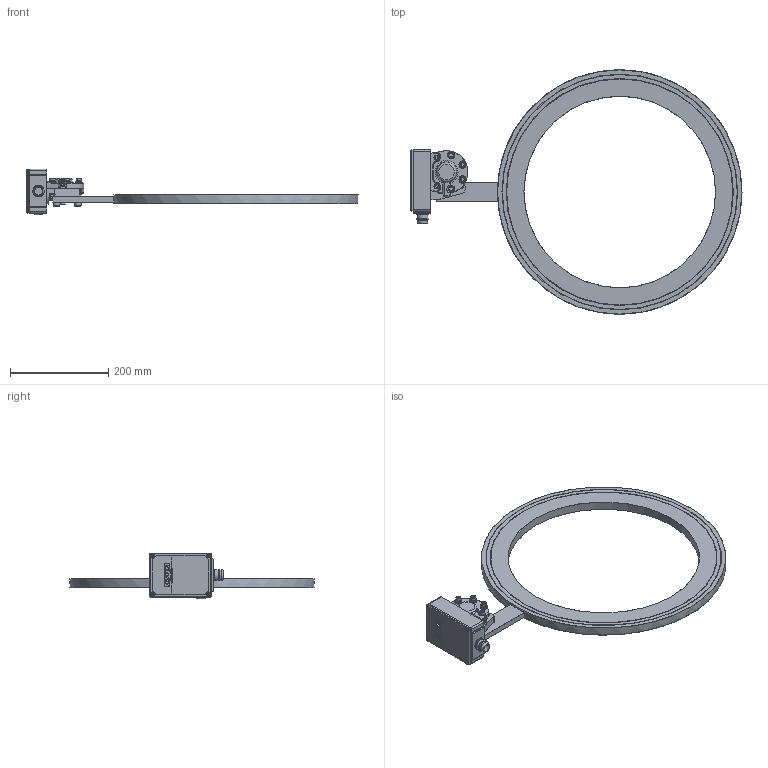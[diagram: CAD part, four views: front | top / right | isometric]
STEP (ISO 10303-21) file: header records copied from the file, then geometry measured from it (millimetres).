
FILE_DESCRIPTION(/* description */ ('Alibre Inc.'),/* implementation_level */ '2;1');
FILE_NAME(/* name */ 'export0',/* time_stamp */ '2012-10-19T13:19:01+02:00',/* author */ (''),/* organization */ (''),/* preprocessor_version */ 'ST-DEVELOPER v14',/* originating_system */ 'Alibre',/* authorisation */ '');
FILE_SCHEMA (('CONFIG_CONTROL_DESIGN'));
Length unit declared in the file: centimetre
Products named in the file (12): ID_1; ID_2; ID_3; ID_4; ID_5; ID_6; ID_7; ID_8
Bounding box: 676.28 x 498 x 93.66 mm (x, y, z)
Volume: 1678646.7 mm3; surface area: 364639.8 mm2
Topology: 21 solids, 21 shells, 1082 faces, 2558 edges, 1586 vertices
Faces by surface type: plane 534, cylinder 231, bspline 162, cone 77, torus 70, sphere 8
Full cylindrical faces by diameter (mm): 3.9 x2, 5 x22, 5.5 x1, 5.541 x2, 6 x14, 6.038 x2, 6.5 x6, 8 x9, 8.5 x2, 9.6 x6, 10 x11, 10.5 x1, 12 x3, 13 x2, 14 x3, 16 x1, 17.966 x1, 19.5 x1, 22 x2, 22.5 x4, 29 x1, 31 x1, 390 x1, 461 x2, 462 x2, 479 x2, 480 x2, 498 x1
Entity records: 34223 total; most frequent: CARTESIAN_POINT 14014, ORIENTED_EDGE 3962, DIRECTION 3153, EDGE_CURVE 1981, VERTEX_POINT 1325, AXIS2_PLACEMENT_3D 1278, EDGE_LOOP 1158, FACE_BOUND 1158
